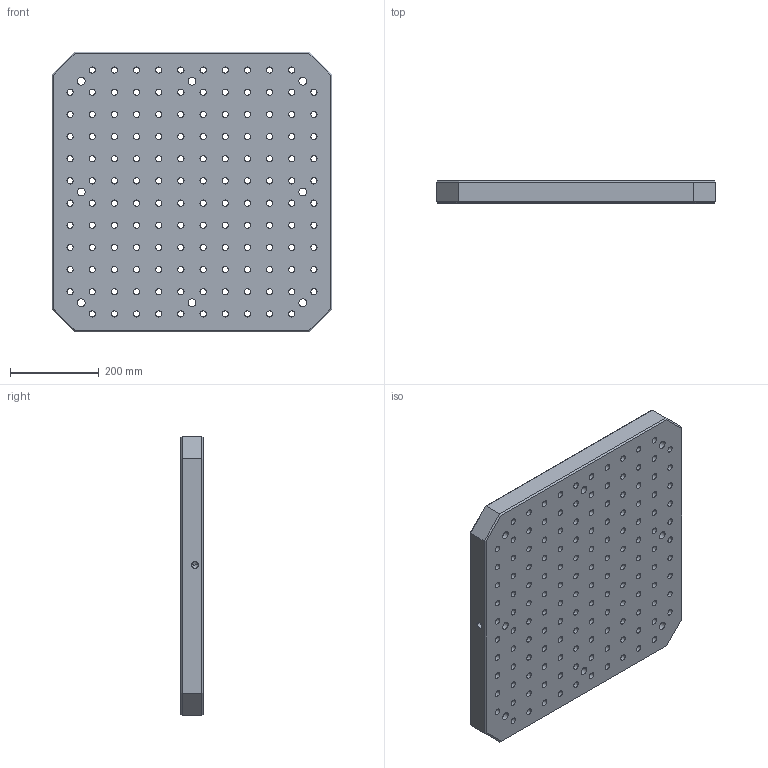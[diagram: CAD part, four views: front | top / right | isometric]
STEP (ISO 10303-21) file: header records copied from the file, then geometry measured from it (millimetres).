
FILE_DESCRIPTION((''),'2;1');
FILE_NAME('FG_WH_BASPL_SQG16NP003','2026-05-18T16:02:07',('Admin'),(''),'CREO PARAMETRIC BY PTC INC, 2025010','CREO PARAMETRIC BY PTC INC, 2025010','');
FILE_SCHEMA(('CONFIG_CONTROL_DESIGN'));
Length unit declared in the file: millimetre
Products named in the file (1): FG_WH_BASPL_SQG16NP003
Bounding box: 630 x 50 x 630 mm (x, y, z)
Volume: 18231468.2 mm3; surface area: 1446511.8 mm2
Topology: 1 solids, 144 shells, 1207 faces, 3006 edges, 2089 vertices
Faces by surface type: cylinder 884, plane 317, cone 6
Entity records: 37694 total; most frequent: DIRECTION 7470, CARTESIAN_POINT 6297, ORIENTED_EDGE 5428, AXIS2_PLACEMENT_3D 3262, EDGE_CURVE 3000, VERTEX_POINT 2089, CIRCLE 2054, EDGE_LOOP 1797
